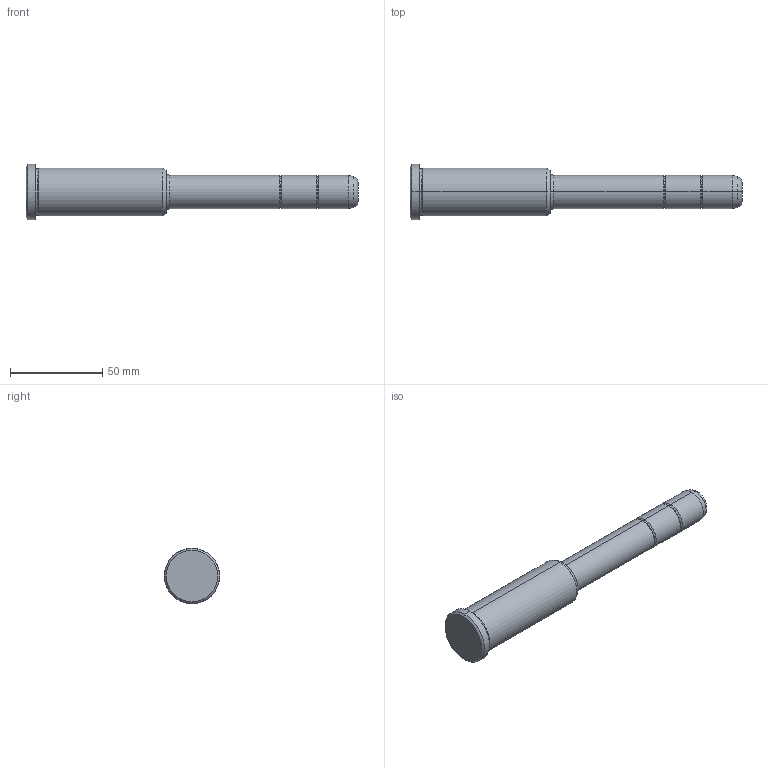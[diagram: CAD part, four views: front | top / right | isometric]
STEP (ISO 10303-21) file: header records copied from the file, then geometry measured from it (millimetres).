
FILE_DESCRIPTION(('CATIA V5 STEP Exchange'),'2;1');
FILE_NAME('C:\Users\Utente\Desktop\IO LAVORO\3D X SITO CF\X SITO\PLASTICA\351\351-18X76X180.stp','2021-08-27T11:25:51+00:00',('none'),('none'),'CATIA Version 5 Release 20 GA (IN-10)','CATIA V5 STEP AP203','none');
FILE_SCHEMA(('CONFIG_CONTROL_DESIGN'));
Length unit declared in the file: millimetre
Products named in the file (1): 351-18X76X180
Bounding box: 180 x 30 x 30 mm (x, y, z)
Volume: 67262.9 mm3; surface area: 13335 mm2
Topology: 1 solids, 1 shells, 36 faces, 102 edges, 70 vertices
Faces by surface type: torus 16, cylinder 10, cone 6, plane 4
Entity records: 1292 total; most frequent: CARTESIAN_POINT 321, ORIENTED_EDGE 204, DIRECTION 166, AXIS2_PLACEMENT_3D 115, EDGE_CURVE 102, CIRCLE 78, VERTEX_POINT 70, EDGE_LOOP 38
